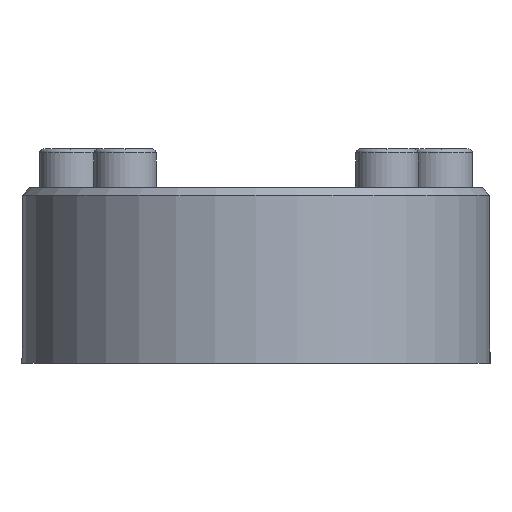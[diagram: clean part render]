
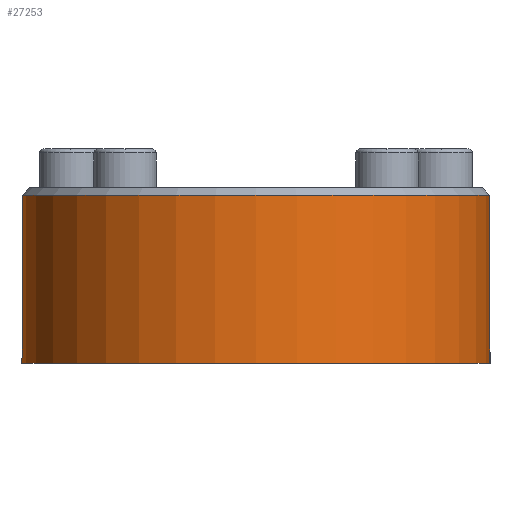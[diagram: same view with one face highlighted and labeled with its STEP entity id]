
A CAD part, front view. The second image highlights one B-rep face of the part: STEP entity #27253.
In plain terms, the highlighted cylindrical face has radius 60 mm (diameter 120 mm), a partial arc.
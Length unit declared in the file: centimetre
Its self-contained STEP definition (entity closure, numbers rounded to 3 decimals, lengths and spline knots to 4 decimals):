
#1654=CYLINDRICAL_SURFACE('',#28723,6.);
#3151=FACE_OUTER_BOUND('',#4617,.T.);
#4617=EDGE_LOOP('',(#18515,#18516,#18517,#18518));
#6271=LINE('',#34942,#9095);
#6275=LINE('',#34951,#9099);
#9095=VECTOR('',#29859,4.3);
#9099=VECTOR('',#29865,4.3);
#11919=CIRCLE('',#28724,6.);
#11920=CIRCLE('',#28725,6.);
#12007=VERTEX_POINT('',#34940);
#12008=VERTEX_POINT('',#34941);
#12011=VERTEX_POINT('',#34949);
#12012=VERTEX_POINT('',#34950);
#14621=EDGE_CURVE('',#12007,#12008,#6271,.T.);
#14625=EDGE_CURVE('',#12011,#12012,#6275,.T.);
#14626=EDGE_CURVE('',#12008,#12012,#11919,.T.);
#14627=EDGE_CURVE('',#12011,#12007,#11920,.T.);
#18515=ORIENTED_EDGE('',*,*,#14625,.T.);
#18516=ORIENTED_EDGE('',*,*,#14626,.F.);
#18517=ORIENTED_EDGE('',*,*,#14621,.F.);
#18518=ORIENTED_EDGE('',*,*,#14627,.F.);
#27253=ADVANCED_FACE('',(#3151),#1654,.T.);
#28723=AXIS2_PLACEMENT_3D('',#34948,#29863,#29864);
#28724=AXIS2_PLACEMENT_3D('',#34952,#29866,#29867);
#28725=AXIS2_PLACEMENT_3D('',#34953,#29868,#29869);
#29859=DIRECTION('',(0.,0.,1.));
#29863=DIRECTION('center_axis',(0.,0.,
-1.));
#29864=DIRECTION('ref_axis',(-1.,0.,0.));
#29865=DIRECTION('',(0.,0.,1.));
#29866=DIRECTION('center_axis',(0.,0.,
1.));
#29867=DIRECTION('ref_axis',(-1.,0.,0.));
#29868=DIRECTION('center_axis',(0.,0.,
-1.));
#29869=DIRECTION('ref_axis',(1.,0.,0.));
#34940=CARTESIAN_POINT('',(-6.,-32.,-3.3));
#34941=CARTESIAN_POINT('',(-6.,-32.,1.));
#34942=CARTESIAN_POINT('',(-6.,-32.,-3.3));
#34948=CARTESIAN_POINT('Origin',(0.,-32.,1.2));
#34949=CARTESIAN_POINT('',(6.,-32.,-3.3));
#34950=CARTESIAN_POINT('',(6.,-32.,1.));
#34951=CARTESIAN_POINT('',(6.,-32.,-3.3));
#34952=CARTESIAN_POINT('Origin',(0.,-32.,1.));
#34953=CARTESIAN_POINT('Origin',(0.,-32.,-3.3));
